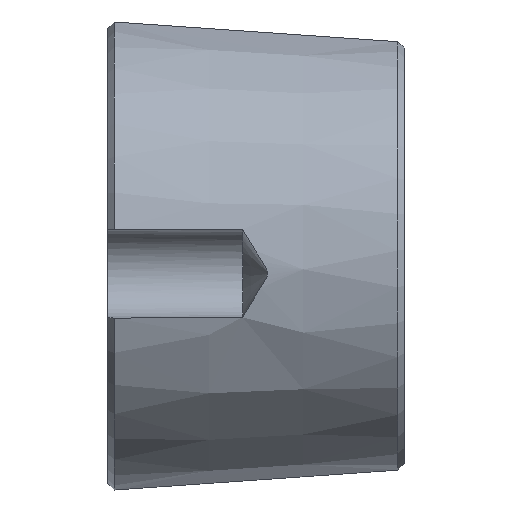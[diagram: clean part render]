
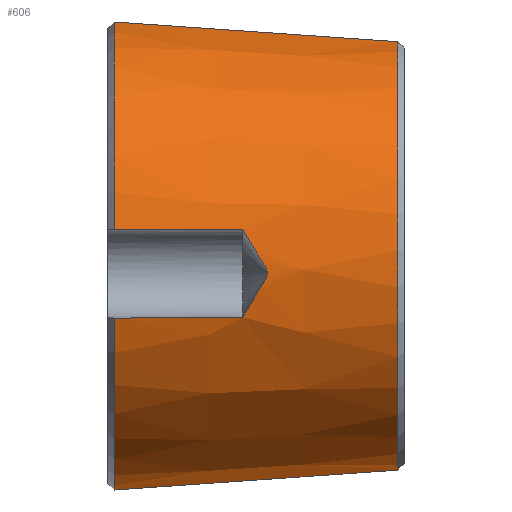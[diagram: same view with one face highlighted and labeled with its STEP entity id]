
A CAD part, top view. The second image highlights one B-rep face of the part: STEP entity #606.
In plain terms, the highlighted conical face has half-angle 4 degrees and reference radius 16.766 mm.
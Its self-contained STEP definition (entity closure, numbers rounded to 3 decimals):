
#16=(
BOUNDED_CURVE()
B_SPLINE_CURVE(2,(#1070,#1071,#1072),.UNSPECIFIED.,.F.,.F.)
B_SPLINE_CURVE_WITH_KNOTS((3,3),(0.,2.105),.UNSPECIFIED.)
CURVE()
GEOMETRIC_REPRESENTATION_ITEM()
RATIONAL_B_SPLINE_CURVE((1.,1.001,1.))
REPRESENTATION_ITEM('')
);
#34=CONICAL_SURFACE('',#661,16.766,4.);
#128=FACE_OUTER_BOUND('',#162,.T.);
#162=EDGE_LOOP('',(#457,#458,#459,#460,#461,#462,#463,#464));
#206=CIRCLE('',#662,17.5);
#207=CIRCLE('',#663,17.5);
#208=CIRCLE('',#664,16.032);
#222=B_SPLINE_CURVE_WITH_KNOTS('',3,(#880,#881,#882,#883,#884,#885,#886,
#887),.UNSPECIFIED.,.F.,.F.,(4,2,2,4),(0.937,1.648,
2.751,2.909),.UNSPECIFIED.);
#231=B_SPLINE_CURVE_WITH_KNOTS('',3,(#1012,#1013,#1014,#1015,#1016,#1017,
#1018,#1019,#1020,#1021,#1022,#1023,#1024,#1025,#1026,#1027,#1028,#1029,
#1030,#1031,#1032,#1033),.UNSPECIFIED.,.F.,.F.,(4,2,2,2,2,2,2,2,2,2,4),
(1.989,2.097,2.233,2.302,2.336,
2.37,2.404,2.438,2.507,2.644,
2.751),.UNSPECIFIED.);
#232=B_SPLINE_CURVE_WITH_KNOTS('',3,(#1037,#1038,#1039,#1040,#1041,#1042),
 .UNSPECIFIED.,.F.,.F.,(4,2,4),(0.945,1.116,1.82),
 .UNSPECIFIED.);
#235=B_SPLINE_CURVE_WITH_KNOTS('',3,(#1052,#1053,#1054,#1055,#1056,#1057),
 .UNSPECIFIED.,.F.,.F.,(4,2,4),(0.953,1.657,1.828),
 .UNSPECIFIED.);
#237=VERTEX_POINT('',#873);
#239=VERTEX_POINT('',#879);
#270=VERTEX_POINT('',#1010);
#271=VERTEX_POINT('',#1011);
#272=VERTEX_POINT('',#1036);
#273=VERTEX_POINT('',#1047);
#274=VERTEX_POINT('',#1067);
#275=VERTEX_POINT('',#1069);
#302=EDGE_CURVE('',#239,#237,#222,.T.);
#338=EDGE_CURVE('',#270,#271,#231,.T.);
#340=EDGE_CURVE('',#272,#271,#232,.T.);
#343=EDGE_CURVE('',#270,#273,#235,.T.);
#346=EDGE_CURVE('',#272,#237,#206,.T.);
#347=EDGE_CURVE('',#274,#273,#207,.T.);
#348=EDGE_CURVE('',#274,#275,#16,.T.);
#349=EDGE_CURVE('',#275,#239,#208,.T.);
#457=ORIENTED_EDGE('',*,*,#302,.T.);
#458=ORIENTED_EDGE('',*,*,#346,.F.);
#459=ORIENTED_EDGE('',*,*,#340,.T.);
#460=ORIENTED_EDGE('',*,*,#338,.F.);
#461=ORIENTED_EDGE('',*,*,#343,.T.);
#462=ORIENTED_EDGE('',*,*,#347,.F.);
#463=ORIENTED_EDGE('',*,*,#348,.T.);
#464=ORIENTED_EDGE('',*,*,#349,.T.);
#606=ADVANCED_FACE('',(#128),#34,.T.);
#661=AXIS2_PLACEMENT_3D('',#1065,#768,#769);
#662=AXIS2_PLACEMENT_3D('',#1066,#770,#771);
#663=AXIS2_PLACEMENT_3D('',#1068,#772,#773);
#664=AXIS2_PLACEMENT_3D('',#1073,#774,#775);
#768=DIRECTION('center_axis',(-1.,0.,0.));
#769=DIRECTION('ref_axis',(0.,-1.,0.));
#770=DIRECTION('center_axis',(-1.,0.,0.));
#771=DIRECTION('ref_axis',(0.,0.,1.));
#772=DIRECTION('center_axis',(-1.,0.,0.));
#773=DIRECTION('ref_axis',(0.,0.,1.));
#774=DIRECTION('center_axis',(-1.,0.,0.));
#775=DIRECTION('ref_axis',(0.,0.,1.));
#873=CARTESIAN_POINT('',(-9.305,19.76,3.182));
#879=CARTESIAN_POINT('',(11.695,18.3,2.999));
#880=CARTESIAN_POINT('Ctrl Pts',(11.695,18.3,2.999));
#881=CARTESIAN_POINT('Ctrl Pts',(9.096,18.473,3.063));
#882=CARTESIAN_POINT('Ctrl Pts',(6.525,18.647,3.11));
#883=CARTESIAN_POINT('Ctrl Pts',(0.491,19.061,3.191));
#884=CARTESIAN_POINT('Ctrl Pts',(-3.543,19.344,3.212));
#885=CARTESIAN_POINT('Ctrl Pts',(-8.153,19.676,3.19));
#886=CARTESIAN_POINT('Ctrl Pts',(-8.729,19.718,3.186));
#887=CARTESIAN_POINT('Ctrl Pts',(-9.305,19.76,3.182));
#1010=CARTESIAN_POINT('',(0.195,-2.157,16.164));
#1011=CARTESIAN_POINT('',(0.195,4.381,16.736));
#1012=CARTESIAN_POINT('Ctrl Pts',(0.195,-2.157,16.164));
#1013=CARTESIAN_POINT('Ctrl Pts',(0.381,-1.856,16.238));
#1014=CARTESIAN_POINT('Ctrl Pts',(0.566,-1.555,16.303));
#1015=CARTESIAN_POINT('Ctrl Pts',(0.985,-0.869,16.433));
#1016=CARTESIAN_POINT('Ctrl Pts',(1.233,-0.462,16.495));
#1017=CARTESIAN_POINT('Ctrl Pts',(1.594,0.138,16.564));
#1018=CARTESIAN_POINT('Ctrl Pts',(1.711,0.333,16.583));
#1019=CARTESIAN_POINT('Ctrl Pts',(1.876,0.618,16.606));
#1020=CARTESIAN_POINT('Ctrl Pts',(1.93,0.71,16.613));
#1021=CARTESIAN_POINT('Ctrl Pts',(2.027,0.895,16.626));
#1022=CARTESIAN_POINT('Ctrl Pts',(2.081,0.982,16.63));
#1023=CARTESIAN_POINT('Ctrl Pts',(2.081,1.209,16.65));
#1024=CARTESIAN_POINT('Ctrl Pts',(2.027,1.295,16.661));
#1025=CARTESIAN_POINT('Ctrl Pts',(1.93,1.48,16.68));
#1026=CARTESIAN_POINT('Ctrl Pts',(1.876,1.572,16.69));
#1027=CARTESIAN_POINT('Ctrl Pts',(1.711,1.856,16.716));
#1028=CARTESIAN_POINT('Ctrl Pts',(1.594,2.052,16.732));
#1029=CARTESIAN_POINT('Ctrl Pts',(1.233,2.654,16.768));
#1030=CARTESIAN_POINT('Ctrl Pts',(0.985,3.067,16.777));
#1031=CARTESIAN_POINT('Ctrl Pts',(0.566,3.764,16.769));
#1032=CARTESIAN_POINT('Ctrl Pts',(0.381,4.072,16.757));
#1033=CARTESIAN_POINT('Ctrl Pts',(0.195,4.381,16.736));
#1036=CARTESIAN_POINT('',(-9.305,4.325,17.41));
#1037=CARTESIAN_POINT('Ctrl Pts',(-9.305,4.325,17.41));
#1038=CARTESIAN_POINT('Ctrl Pts',(-8.682,4.333,17.365));
#1039=CARTESIAN_POINT('Ctrl Pts',(-8.059,4.341,17.321));
#1040=CARTESIAN_POINT('Ctrl Pts',(-4.861,4.374,17.092));
#1041=CARTESIAN_POINT('Ctrl Pts',(-2.286,4.384,16.91));
#1042=CARTESIAN_POINT('Ctrl Pts',(0.195,4.381,16.736));
#1047=CARTESIAN_POINT('',(-9.305,-2.218,16.838));
#1052=CARTESIAN_POINT('Ctrl Pts',(0.195,-2.157,16.164));
#1053=CARTESIAN_POINT('Ctrl Pts',(-2.286,-2.19,16.335));
#1054=CARTESIAN_POINT('Ctrl Pts',(-4.861,-2.212,16.516));
#1055=CARTESIAN_POINT('Ctrl Pts',(-8.059,-2.218,16.747));
#1056=CARTESIAN_POINT('Ctrl Pts',(-8.682,-2.219,16.792));
#1057=CARTESIAN_POINT('Ctrl Pts',(-9.305,-2.218,16.838));
#1065=CARTESIAN_POINT('Origin',(1.195,2.551,0.));
#1066=CARTESIAN_POINT('Origin',(-9.305,2.551,0.));
#1067=CARTESIAN_POINT('',(-9.305,-14.933,0.75));
#1068=CARTESIAN_POINT('Origin',(-9.305,2.551,0.));
#1069=CARTESIAN_POINT('',(11.695,-13.463,0.75));
#1070=CARTESIAN_POINT('Ctrl Pts',(-9.305,-14.933,0.75));
#1071=CARTESIAN_POINT('Ctrl Pts',(1.656,-14.166,0.75));
#1072=CARTESIAN_POINT('Ctrl Pts',(11.695,-13.463,0.75));
#1073=CARTESIAN_POINT('Origin',(11.695,2.551,0.));
